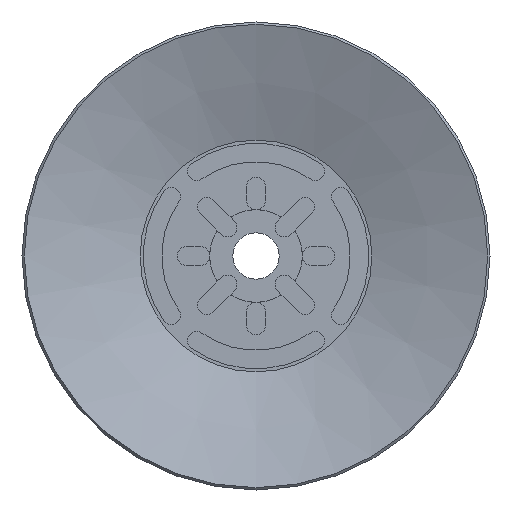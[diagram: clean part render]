
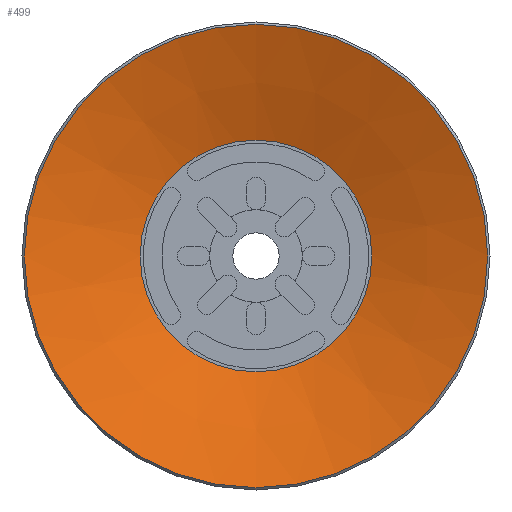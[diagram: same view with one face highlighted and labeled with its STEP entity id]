
A CAD part, front view. The second image highlights one B-rep face of the part: STEP entity #499.
In plain terms, the highlighted conical face has half-angle 70.201 degrees and reference radius 7.5 mm.
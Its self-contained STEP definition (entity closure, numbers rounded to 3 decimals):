
#499=ADVANCED_FACE('',(#794,#795),#796,.F.);
#794=FACE_BOUND('',#1160,.T.);
#795=FACE_OUTER_BOUND('',#1161,.T.);
#796=CONICAL_SURFACE('',#1162,7.5,1.225);
#1160=EDGE_LOOP('',(#2003));
#1161=EDGE_LOOP('',(#2004));
#1162=AXIS2_PLACEMENT_3D('',#2005,#2006,#2007);
#2003=ORIENTED_EDGE('',*,*,#2704,.F.);
#2004=ORIENTED_EDGE('',*,*,#2691,.T.);
#2005=CARTESIAN_POINT('',(0.0,0.0,2.7));
#2006=DIRECTION('',(0.0,0.,-1.0));
#2007=DIRECTION('',(0.0,1.0,0.));
#2691=EDGE_CURVE('',#3209,#3209,#3210,.T.);
#2704=EDGE_CURVE('',#3233,#3233,#3234,.T.);
#3209=VERTEX_POINT('',#4209);
#3210=CIRCLE('',#4210,15.0);
#3233=VERTEX_POINT('',#4241);
#3234=CIRCLE('',#4242,7.5);
#4209=CARTESIAN_POINT('',(0.0,15.0,0.));
#4210=AXIS2_PLACEMENT_3D('',#4833,#4834,#4835);
#4241=CARTESIAN_POINT('',(0.0,7.5,2.7));
#4242=AXIS2_PLACEMENT_3D('',#4856,#4857,#4858);
#4833=CARTESIAN_POINT('',(0.0,0.0,0.0));
#4834=DIRECTION('',(0.0,0.,-1.0));
#4835=DIRECTION('',(0.0,1.0,0.));
#4856=CARTESIAN_POINT('',(0.0,0.0,2.7));
#4857=DIRECTION('',(0.0,0.,-1.0));
#4858=DIRECTION('',(0.0,1.0,0.));
